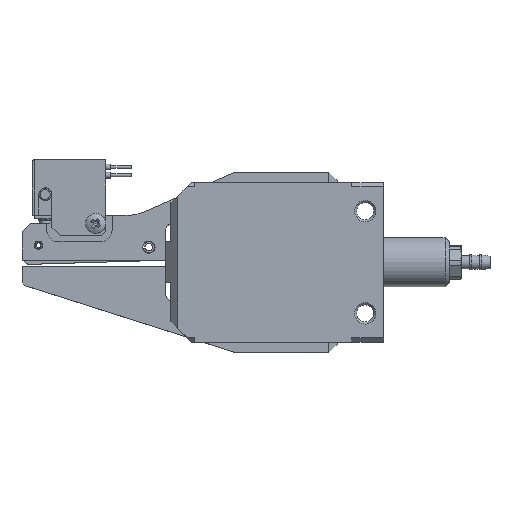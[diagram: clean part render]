
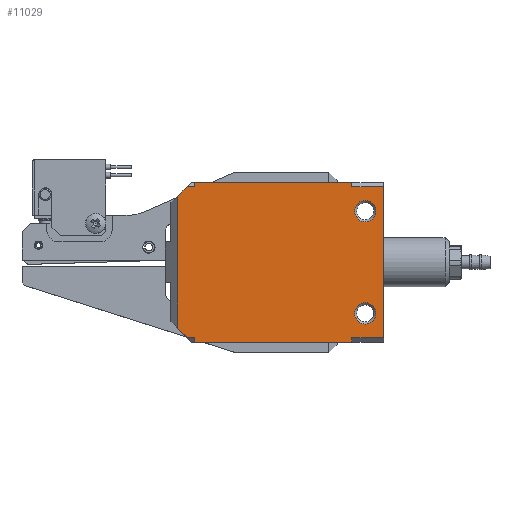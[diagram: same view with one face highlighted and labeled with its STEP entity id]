
A CAD part, top view. The second image highlights one B-rep face of the part: STEP entity #11029.
In plain terms, the highlighted planar face has unit normal (0, 0, 1).
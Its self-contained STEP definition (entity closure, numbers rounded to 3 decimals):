
#50 = DIRECTION ( 'NONE',  ( -1., 0., 0. ) ) ;
#52 = CARTESIAN_POINT ( 'NONE',  ( -33.095, -4.233, 8. ) ) ;
#229 = VERTEX_POINT ( 'NONE', #10777 ) ;
#249 = CARTESIAN_POINT ( 'NONE',  ( -29.695, -18.733, 8. ) ) ;
#279 = VECTOR ( 'NONE', #9806, 1000. ) ;
#304 = DIRECTION ( 'NONE',  ( 0., 1., 0. ) ) ;
#734 = DIRECTION ( 'NONE',  ( 0., 0., -1. ) ) ;
#823 = ORIENTED_EDGE ( 'NONE', *, *, #1675, .T. ) ;
#843 = AXIS2_PLACEMENT_3D ( 'NONE', #10214, #11089, #5847 ) ;
#1013 = EDGE_CURVE ( 'NONE', #1478, #4989, #7827, .T. ) ;
#1077 = VERTEX_POINT ( 'NONE', #6898 ) ;
#1114 = EDGE_CURVE ( 'NONE', #2341, #5805, #7006, .T. ) ;
#1165 = EDGE_CURVE ( 'NONE', #7619, #2341, #4125, .T. ) ;
#1170 = DIRECTION ( 'NONE',  ( 1., 0., 0. ) ) ;
#1249 = ORIENTED_EDGE ( 'NONE', *, *, #6942, .T. ) ;
#1263 = CIRCLE ( 'NONE', #8415, 2.6 ) ;
#1382 = EDGE_CURVE ( 'NONE', #4832, #6158, #9215, .T. ) ;
#1465 = VERTEX_POINT ( 'NONE', #4577 ) ;
#1478 = VERTEX_POINT ( 'NONE', #7252 ) ;
#1514 = ORIENTED_EDGE ( 'NONE', *, *, #1747, .T. ) ;
#1527 = VECTOR ( 'NONE', #5940, 1000. ) ;
#1592 = CARTESIAN_POINT ( 'NONE',  ( 17.305, 19.267, 8. ) ) ;
#1675 = EDGE_CURVE ( 'NONE', #5868, #3548, #11106, .T. ) ;
#1719 = DIRECTION ( 'NONE',  ( 0., -1., 0. ) ) ;
#1747 = EDGE_CURVE ( 'NONE', #5712, #5712, #1263, .T. ) ;
#2014 = CARTESIAN_POINT ( 'NONE',  ( -28.894, -17.733, 8. ) ) ;
#2212 = VECTOR ( 'NONE', #1170, 1000. ) ;
#2263 = CARTESIAN_POINT ( 'NONE',  ( 9.503, 20.267, 8. ) ) ;
#2341 = VERTEX_POINT ( 'NONE', #2423 ) ;
#2342 = EDGE_CURVE ( 'NONE', #4989, #7619, #5623, .T. ) ;
#2423 = CARTESIAN_POINT ( 'NONE',  ( -33.095, 16.867, 8. ) ) ;
#2743 = ORIENTED_EDGE ( 'NONE', *, *, #4259, .T. ) ;
#2804 = FACE_OUTER_BOUND ( 'NONE', #4059, .T. ) ;
#2863 = LINE ( 'NONE', #5445, #279 ) ;
#2998 = CARTESIAN_POINT ( 'NONE',  ( -30.695, 19.267, 8. ) ) ;
#3283 = VECTOR ( 'NONE', #9492, 1000. ) ;
#3468 = ORIENTED_EDGE ( 'NONE', *, *, #2342, .T. ) ;
#3548 = VERTEX_POINT ( 'NONE', #3790 ) ;
#3564 = ORIENTED_EDGE ( 'NONE', *, *, #7268, .T. ) ;
#3651 = VECTOR ( 'NONE', #10430, 1000. ) ;
#3671 = VECTOR ( 'NONE', #8129, 1000. ) ;
#3781 = CIRCLE ( 'NONE', #10401, 2.6 ) ;
#3790 = CARTESIAN_POINT ( 'NONE',  ( 17.305, -17.733, 8. ) ) ;
#3930 = LINE ( 'NONE', #9558, #3651 ) ;
#4039 = LINE ( 'NONE', #5099, #8427 ) ;
#4059 = EDGE_LOOP ( 'NONE', ( #5144, #6814, #3564, #5769, #823, #6620, #11135, #1249, #5841, #6488, #3468, #8334, #4359, #6352 ) ) ;
#4061 = VECTOR ( 'NONE', #7248, 1000. ) ;
#4078 = VERTEX_POINT ( 'NONE', #4844 ) ;
#4125 = LINE ( 'NONE', #5113, #1527 ) ;
#4259 = EDGE_CURVE ( 'NONE', #229, #229, #3781, .T. ) ;
#4359 = ORIENTED_EDGE ( 'NONE', *, *, #1114, .T. ) ;
#4406 = CARTESIAN_POINT ( 'NONE',  ( 9.503, 19.267, 8. ) ) ;
#4460 = EDGE_CURVE ( 'NONE', #9006, #5868, #10909, .T. ) ;
#4541 = CARTESIAN_POINT ( 'NONE',  ( -30.695, -17.733, 8. ) ) ;
#4577 = CARTESIAN_POINT ( 'NONE',  ( -28.894, -18.733, 8. ) ) ;
#4608 = CARTESIAN_POINT ( 'NONE',  ( 17.305, -17.733, 8. ) ) ;
#4675 = CARTESIAN_POINT ( 'NONE',  ( 9.503, 20.267, 8. ) ) ;
#4832 = VERTEX_POINT ( 'NONE', #4541 ) ;
#4844 = CARTESIAN_POINT ( 'NONE',  ( 9.503, 20.267, 8. ) ) ;
#4889 = EDGE_CURVE ( 'NONE', #4078, #1478, #6388, .T. ) ;
#4986 = PLANE ( 'NONE',  #843 ) ;
#4989 = VERTEX_POINT ( 'NONE', #9132 ) ;
#5099 = CARTESIAN_POINT ( 'NONE',  ( -28.894, 20.267, 8. ) ) ;
#5113 = CARTESIAN_POINT ( 'NONE',  ( -34.695, 15.267, 8. ) ) ;
#5144 = ORIENTED_EDGE ( 'NONE', *, *, #1382, .T. ) ;
#5184 = VECTOR ( 'NONE', #304, 1000. ) ;
#5367 = CARTESIAN_POINT ( 'NONE',  ( 17.305, 20.267, 8. ) ) ;
#5420 = FACE_BOUND ( 'NONE', #6066, .T. ) ;
#5445 = CARTESIAN_POINT ( 'NONE',  ( 17.305, 19.267, 8. ) ) ;
#5446 = CARTESIAN_POINT ( 'NONE',  ( 9.503, 20.267, 8. ) ) ;
#5623 = LINE ( 'NONE', #1592, #3283 ) ;
#5712 = VERTEX_POINT ( 'NONE', #8989 ) ;
#5727 = VECTOR ( 'NONE', #8003, 1000. ) ;
#5769 = ORIENTED_EDGE ( 'NONE', *, *, #4460, .T. ) ;
#5805 = VERTEX_POINT ( 'NONE', #10072 ) ;
#5841 = ORIENTED_EDGE ( 'NONE', *, *, #4889, .T. ) ;
#5847 = DIRECTION ( 'NONE',  ( -1., 0., 0. ) ) ;
#5868 = VERTEX_POINT ( 'NONE', #6812 ) ;
#5940 = DIRECTION ( 'NONE',  ( -0.707, -0.707, 0. ) ) ;
#5958 = DIRECTION ( 'NONE',  ( 0., -1., 0. ) ) ;
#5963 = CARTESIAN_POINT ( 'NONE',  ( 12.805, -11.733, 8. ) ) ;
#6066 = EDGE_LOOP ( 'NONE', ( #2743 ) ) ;
#6157 = DIRECTION ( 'NONE',  ( 0., 0., -1. ) ) ;
#6158 = VERTEX_POINT ( 'NONE', #2014 ) ;
#6352 = ORIENTED_EDGE ( 'NONE', *, *, #9104, .T. ) ;
#6388 = LINE ( 'NONE', #5446, #4061 ) ;
#6488 = ORIENTED_EDGE ( 'NONE', *, *, #1013, .T. ) ;
#6620 = ORIENTED_EDGE ( 'NONE', *, *, #9623, .T. ) ;
#6704 = CARTESIAN_POINT ( 'NONE',  ( 9.503, -18.733, 8. ) ) ;
#6812 = CARTESIAN_POINT ( 'NONE',  ( 9.503, -17.733, 8. ) ) ;
#6814 = ORIENTED_EDGE ( 'NONE', *, *, #11102, .T. ) ;
#6852 = DIRECTION ( 'NONE',  ( -1., 0., 0. ) ) ;
#6898 = CARTESIAN_POINT ( 'NONE',  ( 17.305, 19.267, 8. ) ) ;
#6942 = EDGE_CURVE ( 'NONE', #9572, #4078, #7772, .T. ) ;
#7006 = LINE ( 'NONE', #52, #9077 ) ;
#7073 = CARTESIAN_POINT ( 'NONE',  ( 12.805, 13.267, 8. ) ) ;
#7248 = DIRECTION ( 'NONE',  ( -1., 0., 0. ) ) ;
#7252 = CARTESIAN_POINT ( 'NONE',  ( -28.894, 20.267, 8. ) ) ;
#7268 = EDGE_CURVE ( 'NONE', #1465, #9006, #3930, .T. ) ;
#7523 = DIRECTION ( 'NONE',  ( 0., 1., 0. ) ) ;
#7560 = VECTOR ( 'NONE', #1719, 1000. ) ;
#7589 = DIRECTION ( 'NONE',  ( 0., -1., 0. ) ) ;
#7619 = VERTEX_POINT ( 'NONE', #2998 ) ;
#7772 = LINE ( 'NONE', #4675, #5184 ) ;
#7827 = LINE ( 'NONE', #9615, #7560 ) ;
#8003 = DIRECTION ( 'NONE',  ( 0., 1., 0. ) ) ;
#8056 = LINE ( 'NONE', #5367, #5727 ) ;
#8129 = DIRECTION ( 'NONE',  ( 0.707, -0.707, 0. ) ) ;
#8334 = ORIENTED_EDGE ( 'NONE', *, *, #1165, .T. ) ;
#8415 = AXIS2_PLACEMENT_3D ( 'NONE', #7073, #6157, #50 ) ;
#8427 = VECTOR ( 'NONE', #5958, 1000. ) ;
#8580 = VECTOR ( 'NONE', #7523, 1000. ) ;
#8750 = EDGE_CURVE ( 'NONE', #1077, #9572, #2863, .T. ) ;
#8784 = VECTOR ( 'NONE', #10731, 1000. ) ;
#8989 = CARTESIAN_POINT ( 'NONE',  ( 10.205, 13.267, 8. ) ) ;
#9006 = VERTEX_POINT ( 'NONE', #6704 ) ;
#9022 = CARTESIAN_POINT ( 'NONE',  ( 17.305, -17.733, 8. ) ) ;
#9077 = VECTOR ( 'NONE', #7589, 1000. ) ;
#9104 = EDGE_CURVE ( 'NONE', #5805, #4832, #10668, .T. ) ;
#9132 = CARTESIAN_POINT ( 'NONE',  ( -28.894, 19.267, 8. ) ) ;
#9215 = LINE ( 'NONE', #9022, #2212 ) ;
#9492 = DIRECTION ( 'NONE',  ( -1., 0., 0. ) ) ;
#9521 = EDGE_LOOP ( 'NONE', ( #1514 ) ) ;
#9532 = FACE_BOUND ( 'NONE', #9521, .T. ) ;
#9558 = CARTESIAN_POINT ( 'NONE',  ( 9.503, -18.733, 8. ) ) ;
#9572 = VERTEX_POINT ( 'NONE', #4406 ) ;
#9615 = CARTESIAN_POINT ( 'NONE',  ( -28.894, 20.267, 8. ) ) ;
#9623 = EDGE_CURVE ( 'NONE', #3548, #1077, #8056, .T. ) ;
#9806 = DIRECTION ( 'NONE',  ( -1., 0., 0. ) ) ;
#10072 = CARTESIAN_POINT ( 'NONE',  ( -33.095, -15.333, 8. ) ) ;
#10214 = CARTESIAN_POINT ( 'NONE',  ( 17.305, 20.267, 8. ) ) ;
#10401 = AXIS2_PLACEMENT_3D ( 'NONE', #5963, #734, #6852 ) ;
#10430 = DIRECTION ( 'NONE',  ( 1., 0., 0. ) ) ;
#10668 = LINE ( 'NONE', #249, #3671 ) ;
#10731 = DIRECTION ( 'NONE',  ( 1., 0., 0. ) ) ;
#10777 = CARTESIAN_POINT ( 'NONE',  ( 10.205, -11.733, 8. ) ) ;
#10909 = LINE ( 'NONE', #2263, #8580 ) ;
#11029 = ADVANCED_FACE ( 'NONE', ( #2804, #9532, #5420 ), #4986, .F. ) ;
#11089 = DIRECTION ( 'NONE',  ( 0., 0., -1. ) ) ;
#11102 = EDGE_CURVE ( 'NONE', #6158, #1465, #4039, .T. ) ;
#11106 = LINE ( 'NONE', #4608, #8784 ) ;
#11135 = ORIENTED_EDGE ( 'NONE', *, *, #8750, .T. ) ;
